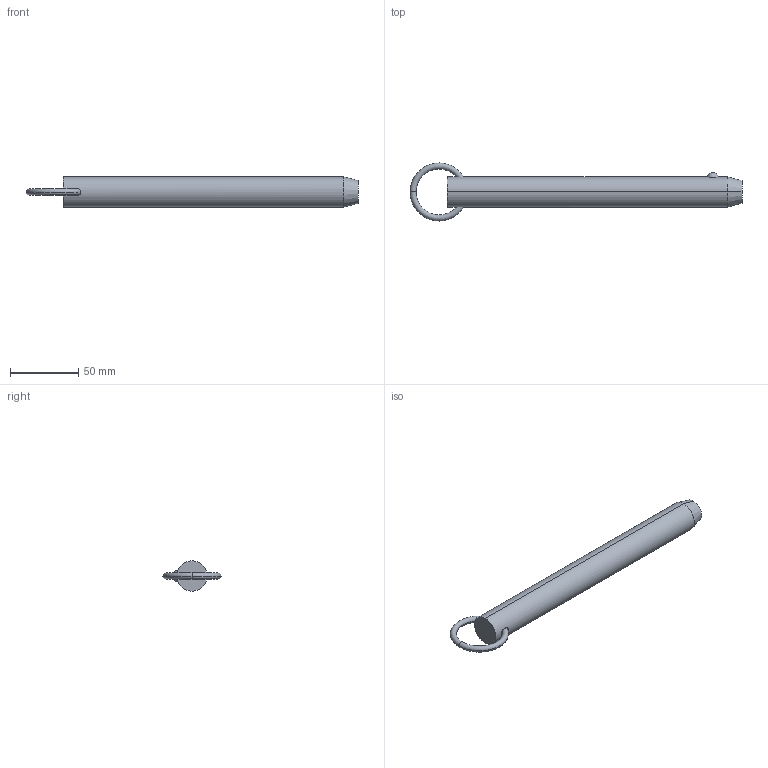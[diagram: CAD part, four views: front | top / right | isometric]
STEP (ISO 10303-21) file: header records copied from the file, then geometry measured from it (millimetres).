
FILE_DESCRIPTION (( 'STEP AP203' ), '1' );
FILE_NAME ('33010.W8870.step', '2024-11-01T10:46:54', ( '' ), ( '' ), 'SwSTEP 2.0', 'SolidWorks 2019', '' );
FILE_SCHEMA (( 'CONFIG_CONTROL_DESIGN' ));
Length unit declared in the file: millimetre
Products named in the file (3): 33010.W8870; Part2_33010.W8870; Part1_33010.W8870
Assembly tree (2 placements, depth 2):
  33010.W8870
    Part1_33010.W8870
    Part2_33010.W8870
Bounding box: 243.26 x 42.55 x 22.23 mm (x, y, z)
Volume: 84263.7 mm3; surface area: 17673 mm2
Topology: 2 solids, 2 shells, 16 faces, 31 edges, 18 vertices
Faces by surface type: torus 8, sphere 2, cone 2, cylinder 2, plane 2
Entity records: 903 total; most frequent: CARTESIAN_POINT 260, DIRECTION 88, ORIENTED_EDGE 62, AXIS2_PLACEMENT_3D 42, EDGE_CURVE 31, PERSON_AND_ORGANIZATION 26, CIRCLE 21, DATE_AND_TIME 19
